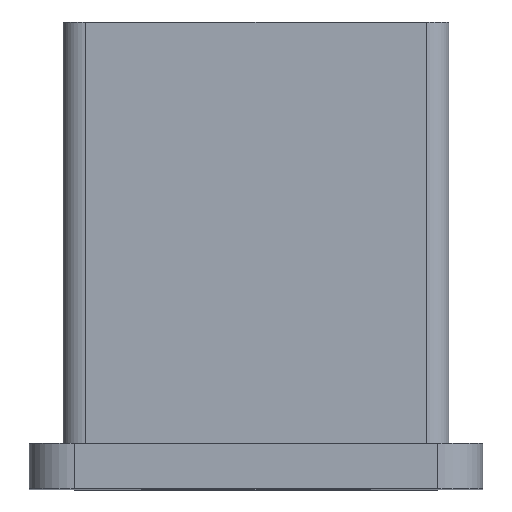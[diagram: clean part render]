
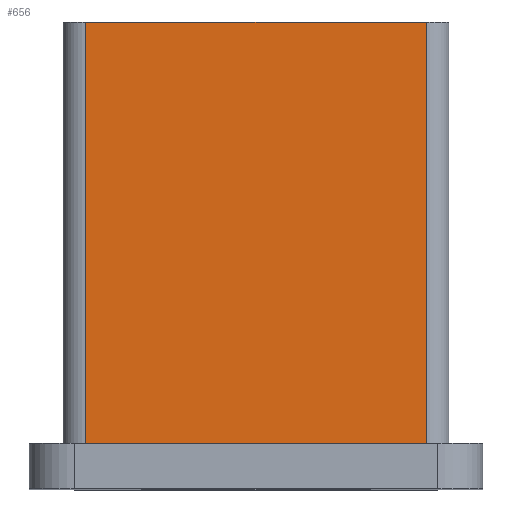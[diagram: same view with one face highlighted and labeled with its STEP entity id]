
A CAD part, top view. The second image highlights one B-rep face of the part: STEP entity #656.
In plain terms, the highlighted planar face has unit normal (0, 0, 1).
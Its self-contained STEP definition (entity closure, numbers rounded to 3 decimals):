
#33=PLANE('',#702);
#59=FACE_OUTER_BOUND('',#97,.T.);
#97=EDGE_LOOP('',(#494,#495,#496,#497));
#145=LINE('',#962,#213);
#160=LINE('',#999,#228);
#161=LINE('',#1002,#229);
#162=LINE('',#1003,#230);
#213=VECTOR('',#771,10.);
#228=VECTOR('',#800,10.);
#229=VECTOR('',#803,10.);
#230=VECTOR('',#804,10.);
#308=VERTEX_POINT('',#959);
#309=VERTEX_POINT('',#961);
#324=VERTEX_POINT('',#997);
#325=VERTEX_POINT('',#1001);
#374=EDGE_CURVE('',#309,#308,#145,.T.);
#393=EDGE_CURVE('',#324,#308,#160,.T.);
#394=EDGE_CURVE('',#324,#325,#161,.T.);
#395=EDGE_CURVE('',#309,#325,#162,.T.);
#494=ORIENTED_EDGE('',*,*,#393,.F.);
#495=ORIENTED_EDGE('',*,*,#394,.T.);
#496=ORIENTED_EDGE('',*,*,#395,.F.);
#497=ORIENTED_EDGE('',*,*,#374,.T.);
#656=ADVANCED_FACE('',(#59),#33,.T.);
#702=AXIS2_PLACEMENT_3D('',#1000,#801,#802);
#771=DIRECTION('',(-1.,0.,0.));
#800=DIRECTION('',(0.,1.,0.));
#801=DIRECTION('center_axis',(0.,0.,1.));
#802=DIRECTION('ref_axis',(-1.,0.,0.));
#803=DIRECTION('',(1.,0.,0.));
#804=DIRECTION('',(0.,-1.,0.));
#959=CARTESIAN_POINT('',(-7.5,20.571,12.));
#961=CARTESIAN_POINT('',(7.5,20.571,12.));
#962=CARTESIAN_POINT('',(8.5,20.571,12.));
#997=CARTESIAN_POINT('',(-7.5,2.001,12.));
#999=CARTESIAN_POINT('',(-7.5,20.571,12.));
#1000=CARTESIAN_POINT('Origin',(8.5,20.571,12.));
#1001=CARTESIAN_POINT('',(7.5,2.001,12.));
#1002=CARTESIAN_POINT('',(4.25,2.001,12.));
#1003=CARTESIAN_POINT('',(7.5,20.571,12.));
